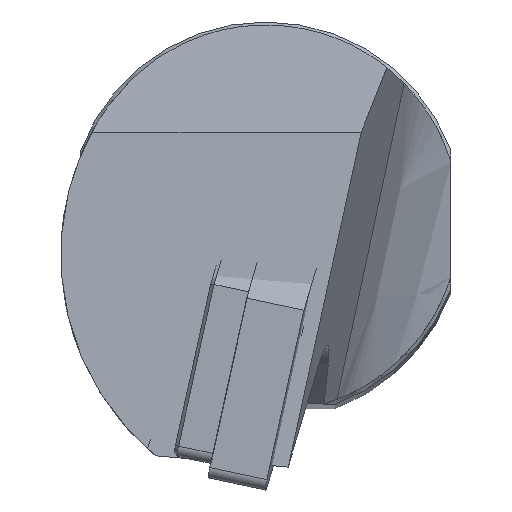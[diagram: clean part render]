
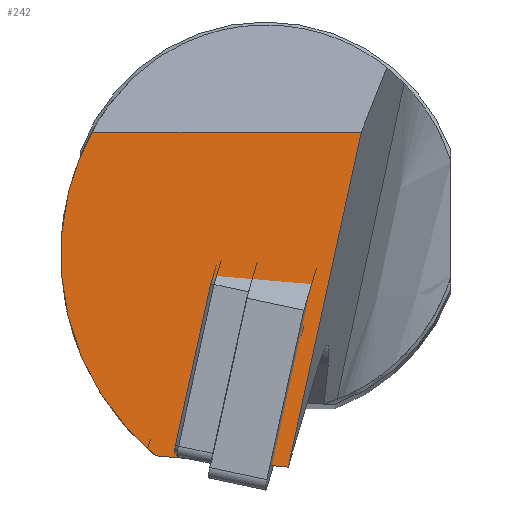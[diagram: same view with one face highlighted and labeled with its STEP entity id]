
A CAD part, top view. The second image highlights one B-rep face of the part: STEP entity #242.
In plain terms, the highlighted planar face has unit normal (0, 0.053, 0.999).
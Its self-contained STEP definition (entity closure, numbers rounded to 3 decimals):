
#102=ELLIPSE('',#998,21.039,21.009);
#242=ADVANCED_FACE('',(#310),#281,.F.);
#281=PLANE('',#999);
#310=FACE_OUTER_BOUND('',#372,.T.);
#372=EDGE_LOOP('',(#512,#513,#514,#515));
#512=ORIENTED_EDGE('',*,*,#768,.F.);
#513=ORIENTED_EDGE('',*,*,#769,.T.);
#514=ORIENTED_EDGE('',*,*,#770,.F.);
#515=ORIENTED_EDGE('',*,*,#771,.T.);
#671=VERTEX_POINT('',#1431);
#672=VERTEX_POINT('',#1432);
#673=VERTEX_POINT('',#1434);
#674=VERTEX_POINT('',#1436);
#768=EDGE_CURVE('',#671,#672,#102,.T.);
#769=EDGE_CURVE('',#671,#673,#863,.T.);
#770=EDGE_CURVE('',#674,#673,#864,.T.);
#771=EDGE_CURVE('',#674,#672,#865,.T.);
#863=LINE('',#1433,#924);
#864=LINE('',#1435,#925);
#865=LINE('',#1437,#926);
#924=VECTOR('',#1182,1.);
#925=VECTOR('',#1183,1.);
#926=VECTOR('',#1184,1.);
#998=AXIS2_PLACEMENT_3D('',#1430,#1180,#1181);
#999=AXIS2_PLACEMENT_3D('',#1438,#1185,#1186);
#1180=DIRECTION('',(0.,-0.053,-0.999));
#1181=DIRECTION('',(0.,-0.999,0.053));
#1182=DIRECTION('',(0.996,-0.085,0.005));
#1183=DIRECTION('',(-0.213,-0.976,0.052));
#1184=DIRECTION('',(-1.,0.,0.));
#1185=DIRECTION('',(0.,-0.053,-0.999));
#1186=DIRECTION('',(0.,0.999,-0.053));
#1430=CARTESIAN_POINT('',(4.399,-2.972,-1.171));
#1431=CARTESIAN_POINT('',(-8.907,-19.229,-0.304));
#1432=CARTESIAN_POINT('',(-14.092,7.,-1.704));
#1433=CARTESIAN_POINT('',(-17.002,-18.54,-0.341));
#1434=CARTESIAN_POINT('',(1.808,-20.142,-0.255));
#1435=CARTESIAN_POINT('',(11.579,24.644,-2.645));
#1436=CARTESIAN_POINT('',(7.729,7.,-1.704));
#1437=CARTESIAN_POINT('',(-21.9,7.,-1.704));
#1438=CARTESIAN_POINT('',(-21.9,-75.864,2.718));
